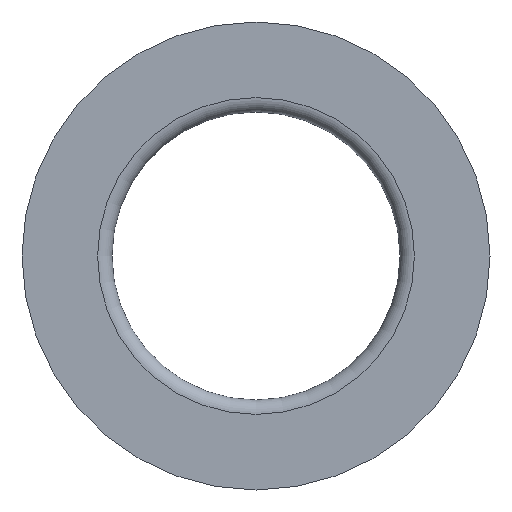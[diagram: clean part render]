
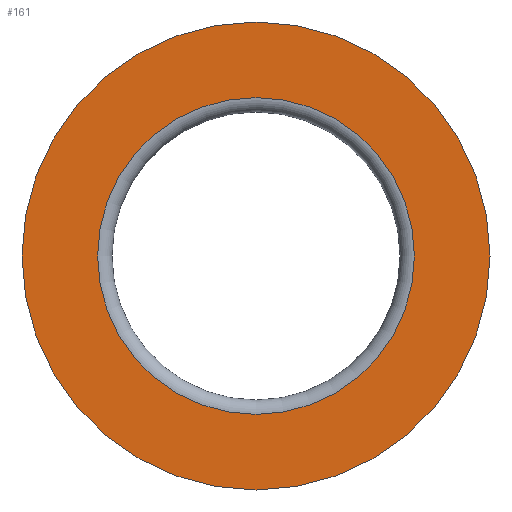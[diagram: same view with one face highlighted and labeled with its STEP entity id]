
A CAD part, left-side view. The second image highlights one B-rep face of the part: STEP entity #161.
In plain terms, the highlighted planar face has unit normal (-1, 0, 0).
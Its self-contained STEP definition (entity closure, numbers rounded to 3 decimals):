
#15=FACE_BOUND('',#46,.T.);
#18=PLANE('',#199);
#35=FACE_OUTER_BOUND('',#45,.T.);
#45=EDGE_LOOP('',(#120));
#46=EDGE_LOOP('',(#121));
#61=CIRCLE('',#197,22.);
#63=CIRCLE('',#200,32.5);
#76=VERTEX_POINT('',#288);
#77=VERTEX_POINT('',#292);
#91=EDGE_CURVE('',#76,#76,#61,.T.);
#93=EDGE_CURVE('',#77,#77,#63,.T.);
#120=ORIENTED_EDGE('',*,*,#93,.F.);
#121=ORIENTED_EDGE('',*,*,#91,.T.);
#161=ADVANCED_FACE('',(#35,#15),#18,.T.);
#197=AXIS2_PLACEMENT_3D('',#289,#235,#236);
#199=AXIS2_PLACEMENT_3D('',#291,#239,#240);
#200=AXIS2_PLACEMENT_3D('',#293,#241,#242);
#235=DIRECTION('center_axis',(1.,0.,0.));
#236=DIRECTION('ref_axis',(0.,0.,-1.));
#239=DIRECTION('center_axis',(-1.,0.,0.));
#240=DIRECTION('ref_axis',(0.,0.,1.));
#241=DIRECTION('center_axis',(1.,0.,0.));
#242=DIRECTION('ref_axis',(0.,0.,-1.));
#288=CARTESIAN_POINT('',(0.,0.,22.));
#289=CARTESIAN_POINT('Origin',(0.,0.,0.));
#291=CARTESIAN_POINT('Origin',(0.,32.5,0.));
#292=CARTESIAN_POINT('',(0.,-32.5,0.));
#293=CARTESIAN_POINT('Origin',(0.,0.,0.));
